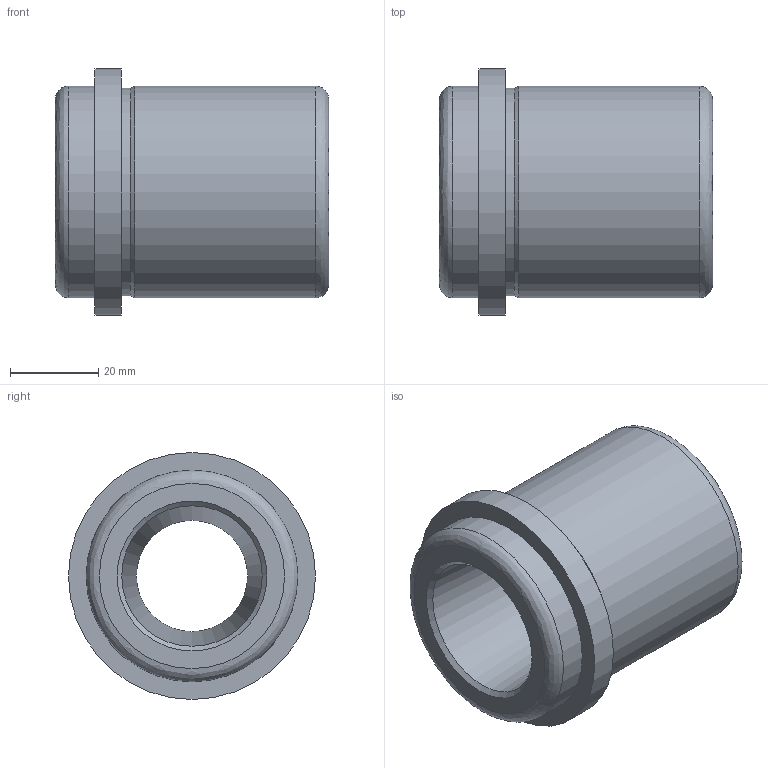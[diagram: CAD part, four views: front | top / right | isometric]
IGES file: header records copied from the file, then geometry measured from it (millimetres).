
Global section: file name: BEAC3247.ipt; native system: Autodesk Inventor 2021; preprocessor: unknown; author: SM; date: 20211206.153103; units: millimetre
Bounding box: 62 x 56 x 56 mm (x, y, z)
Volume: 72596 mm3; surface area: 18462.8 mm2
Topology: 1 solids, 1 shells, 17 faces, 40 edges, 28 vertices
Faces by surface type: revolution 7, plane 5, cylinder 4, cone 1
Full cylindrical faces by diameter (mm): 47 x1, 48 x2, 56 x1
